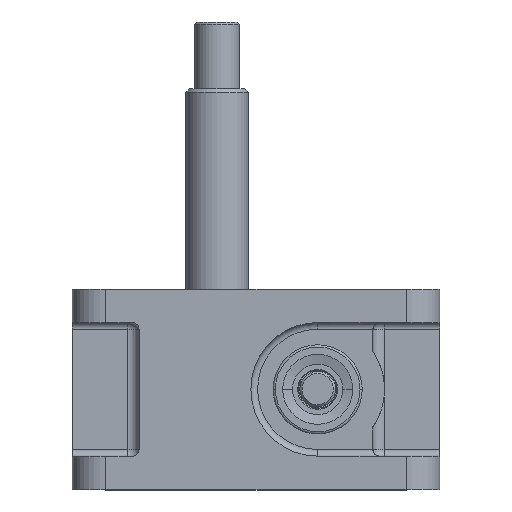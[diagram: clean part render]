
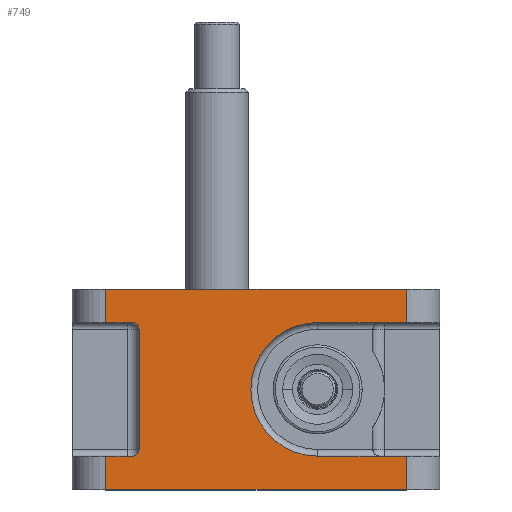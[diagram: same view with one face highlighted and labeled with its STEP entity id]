
A CAD part, top view. The second image highlights one B-rep face of the part: STEP entity #749.
In plain terms, the highlighted planar face has unit normal (0, 0, 1).
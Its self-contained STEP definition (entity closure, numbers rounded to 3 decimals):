
#749 = ADVANCED_FACE ( 'NONE', ( #2989 ), #2988, .F. ) ;
#750 = EDGE_LOOP ( 'NONE', ( #751, #812, #815, #818, #821, #824, #797, #800, #803, #806, #809, #873, #876, #879 ) ) ;
#751 = ORIENTED_EDGE ( 'NONE', *, *, #752, .F. ) ;
#752 = EDGE_CURVE ( 'NONE', #810, #811, #2982, .T. ) ;
#789 = EDGE_CURVE ( 'NONE', #811, #878, #3087, .T. ) ;
#795 = EDGE_CURVE ( 'NONE', #823, #796, #3071, .T. ) ;
#796 = VERTEX_POINT ( 'NONE', #3127 ) ;
#797 = ORIENTED_EDGE ( 'NONE', *, *, #798, .T. ) ;
#798 = EDGE_CURVE ( 'NONE', #796, #799, #3126, .T. ) ;
#799 = VERTEX_POINT ( 'NONE', #3121 ) ;
#800 = ORIENTED_EDGE ( 'NONE', *, *, #801, .F. ) ;
#801 = EDGE_CURVE ( 'NONE', #802, #799, #3120, .T. ) ;
#802 = VERTEX_POINT ( 'NONE', #3116 ) ;
#803 = ORIENTED_EDGE ( 'NONE', *, *, #804, .T. ) ;
#804 = EDGE_CURVE ( 'NONE', #802, #805, #3115, .T. ) ;
#805 = VERTEX_POINT ( 'NONE', #3110 ) ;
#806 = ORIENTED_EDGE ( 'NONE', *, *, #807, .F. ) ;
#807 = EDGE_CURVE ( 'NONE', #808, #805, #3109, .T. ) ;
#808 = VERTEX_POINT ( 'NONE', #3105 ) ;
#809 = ORIENTED_EDGE ( 'NONE', *, *, #871, .T. ) ;
#810 = VERTEX_POINT ( 'NONE', #3104 ) ;
#811 = VERTEX_POINT ( 'NONE', #3103 ) ;
#812 = ORIENTED_EDGE ( 'NONE', *, *, #813, .T. ) ;
#813 = EDGE_CURVE ( 'NONE', #810, #814, #3102, .T. ) ;
#814 = VERTEX_POINT ( 'NONE', #3098 ) ;
#815 = ORIENTED_EDGE ( 'NONE', *, *, #816, .F. ) ;
#816 = EDGE_CURVE ( 'NONE', #817, #814, #3159, .T. ) ;
#817 = VERTEX_POINT ( 'NONE', #3155 ) ;
#818 = ORIENTED_EDGE ( 'NONE', *, *, #819, .F. ) ;
#819 = EDGE_CURVE ( 'NONE', #820, #817, #3154, .T. ) ;
#820 = VERTEX_POINT ( 'NONE', #3150 ) ;
#821 = ORIENTED_EDGE ( 'NONE', *, *, #822, .T. ) ;
#822 = EDGE_CURVE ( 'NONE', #820, #823, #3149, .T. ) ;
#823 = VERTEX_POINT ( 'NONE', #3145 ) ;
#824 = ORIENTED_EDGE ( 'NONE', *, *, #795, .T. ) ;
#871 = EDGE_CURVE ( 'NONE', #808, #872, #3201, .T. ) ;
#872 = VERTEX_POINT ( 'NONE', #3197 ) ;
#873 = ORIENTED_EDGE ( 'NONE', *, *, #874, .T. ) ;
#874 = EDGE_CURVE ( 'NONE', #872, #875, #3196, .T. ) ;
#875 = VERTEX_POINT ( 'NONE', #3254 ) ;
#876 = ORIENTED_EDGE ( 'NONE', *, *, #877, .F. ) ;
#877 = EDGE_CURVE ( 'NONE', #878, #875, #3253, .T. ) ;
#878 = VERTEX_POINT ( 'NONE', #3249 ) ;
#879 = ORIENTED_EDGE ( 'NONE', *, *, #789, .F. ) ;
#2979 = DIRECTION ( 'NONE',  ( 1., 0., 0. ) ) ;
#2980 = DIRECTION ( 'NONE',  ( 0., 0., 1. ) ) ;
#2981 = AXIS2_PLACEMENT_3D ( 'NONE', #2986, #2980, #2979 ) ;
#2982 = CIRCLE ( 'NONE', #2981, 30. ) ;
#2983 = DIRECTION ( 'NONE',  ( -1., 0., 0. ) ) ;
#2984 = DIRECTION ( 'NONE',  ( 0., 0., -1. ) ) ;
#2985 = AXIS2_PLACEMENT_3D ( 'NONE', #2987, #2984, #2983 ) ;
#2986 = CARTESIAN_POINT ( 'NONE',  ( 52.796, 45., 48.48 ) ) ;
#2987 = CARTESIAN_POINT ( 'NONE',  ( 92.596, 90., 48.48 ) ) ;
#2988 = PLANE ( 'NONE',  #2985 ) ;
#2989 = FACE_OUTER_BOUND ( 'NONE', #750, .T. ) ;
#3068 = DIRECTION ( 'NONE',  ( 1., 0., 0. ) ) ;
#3069 = VECTOR ( 'NONE', #3068, 1000. ) ;
#3070 = CARTESIAN_POINT ( 'NONE',  ( -27.404, 75., 48.48 ) ) ;
#3071 = LINE ( 'NONE', #3070, #3069 ) ;
#3084 = DIRECTION ( 'NONE',  ( 1., 0., 0. ) ) ;
#3085 = VECTOR ( 'NONE', #3084, 1000. ) ;
#3086 = CARTESIAN_POINT ( 'NONE',  ( 77.596, 15., 48.48 ) ) ;
#3087 = LINE ( 'NONE', #3086, #3085 ) ;
#3098 = CARTESIAN_POINT ( 'NONE',  ( 92.596, 75., 48.48 ) ) ;
#3099 = DIRECTION ( 'NONE',  ( 1., 0., 0. ) ) ;
#3100 = VECTOR ( 'NONE', #3099, 1000. ) ;
#3101 = CARTESIAN_POINT ( 'NONE',  ( 77.596, 75., 48.48 ) ) ;
#3102 = LINE ( 'NONE', #3101, #3100 ) ;
#3103 = CARTESIAN_POINT ( 'NONE',  ( 52.796, 15., 48.48 ) ) ;
#3104 = CARTESIAN_POINT ( 'NONE',  ( 52.796, 75., 48.48 ) ) ;
#3105 = CARTESIAN_POINT ( 'NONE',  ( -42.404, 15., 48.48 ) ) ;
#3106 = DIRECTION ( 'NONE',  ( 1., 0., 0. ) ) ;
#3107 = VECTOR ( 'NONE', #3106, 1000. ) ;
#3108 = CARTESIAN_POINT ( 'NONE',  ( -27.404, 15., 48.48 ) ) ;
#3109 = LINE ( 'NONE', #3108, #3107 ) ;
#3110 = CARTESIAN_POINT ( 'NONE',  ( -30.404, 15., 48.48 ) ) ;
#3111 = DIRECTION ( 'NONE',  ( -1., 0., 0. ) ) ;
#3112 = DIRECTION ( 'NONE',  ( 0., 0., -1. ) ) ;
#3113 = CARTESIAN_POINT ( 'NONE',  ( -30.404, 18., 48.48 ) ) ;
#3114 = AXIS2_PLACEMENT_3D ( 'NONE', #3113, #3112, #3111 ) ;
#3115 = CIRCLE ( 'NONE', #3114, 3. ) ;
#3116 = CARTESIAN_POINT ( 'NONE',  ( -27.404, 18., 48.48 ) ) ;
#3117 = DIRECTION ( 'NONE',  ( 0., 1., 0. ) ) ;
#3118 = VECTOR ( 'NONE', #3117, 1000. ) ;
#3119 = CARTESIAN_POINT ( 'NONE',  ( -27.404, 15., 48.48 ) ) ;
#3120 = LINE ( 'NONE', #3119, #3118 ) ;
#3121 = CARTESIAN_POINT ( 'NONE',  ( -27.404, 72., 48.48 ) ) ;
#3122 = DIRECTION ( 'NONE',  ( -1., 0., 0. ) ) ;
#3123 = DIRECTION ( 'NONE',  ( 0., 0., -1. ) ) ;
#3124 = CARTESIAN_POINT ( 'NONE',  ( -30.404, 72., 48.48 ) ) ;
#3125 = AXIS2_PLACEMENT_3D ( 'NONE', #3124, #3123, #3122 ) ;
#3126 = CIRCLE ( 'NONE', #3125, 3. ) ;
#3127 = CARTESIAN_POINT ( 'NONE',  ( -30.404, 75., 48.48 ) ) ;
#3145 = CARTESIAN_POINT ( 'NONE',  ( -42.404, 75., 48.48 ) ) ;
#3146 = DIRECTION ( 'NONE',  ( 0., -1., 0. ) ) ;
#3147 = VECTOR ( 'NONE', #3146, 1000. ) ;
#3148 = CARTESIAN_POINT ( 'NONE',  ( -42.404, 90., 48.48 ) ) ;
#3149 = LINE ( 'NONE', #3148, #3147 ) ;
#3150 = CARTESIAN_POINT ( 'NONE',  ( -42.404, 90., 48.48 ) ) ;
#3151 = DIRECTION ( 'NONE',  ( 1., 0., 0. ) ) ;
#3152 = VECTOR ( 'NONE', #3151, 1000. ) ;
#3153 = CARTESIAN_POINT ( 'NONE',  ( 92.596, 90., 48.48 ) ) ;
#3154 = LINE ( 'NONE', #3153, #3152 ) ;
#3155 = CARTESIAN_POINT ( 'NONE',  ( 92.596, 90., 48.48 ) ) ;
#3156 = DIRECTION ( 'NONE',  ( 0., -1., 0. ) ) ;
#3157 = VECTOR ( 'NONE', #3156, 1000. ) ;
#3158 = CARTESIAN_POINT ( 'NONE',  ( 92.596, 90., 48.48 ) ) ;
#3159 = LINE ( 'NONE', #3158, #3157 ) ;
#3194 = VECTOR ( 'NONE', #3255, 1000. ) ;
#3195 = CARTESIAN_POINT ( 'NONE',  ( 92.596, 0., 48.48 ) ) ;
#3196 = LINE ( 'NONE', #3195, #3194 ) ;
#3197 = CARTESIAN_POINT ( 'NONE',  ( -42.404, 0., 48.48 ) ) ;
#3198 = DIRECTION ( 'NONE',  ( 0., -1., 0. ) ) ;
#3199 = VECTOR ( 'NONE', #3198, 1000. ) ;
#3200 = CARTESIAN_POINT ( 'NONE',  ( -42.404, 90., 48.48 ) ) ;
#3201 = LINE ( 'NONE', #3200, #3199 ) ;
#3249 = CARTESIAN_POINT ( 'NONE',  ( 92.596, 15., 48.48 ) ) ;
#3250 = DIRECTION ( 'NONE',  ( 0., -1., 0. ) ) ;
#3251 = VECTOR ( 'NONE', #3250, 1000. ) ;
#3252 = CARTESIAN_POINT ( 'NONE',  ( 92.596, 90., 48.48 ) ) ;
#3253 = LINE ( 'NONE', #3252, #3251 ) ;
#3254 = CARTESIAN_POINT ( 'NONE',  ( 92.596, 0., 48.48 ) ) ;
#3255 = DIRECTION ( 'NONE',  ( 1., 0., 0. ) ) ;
